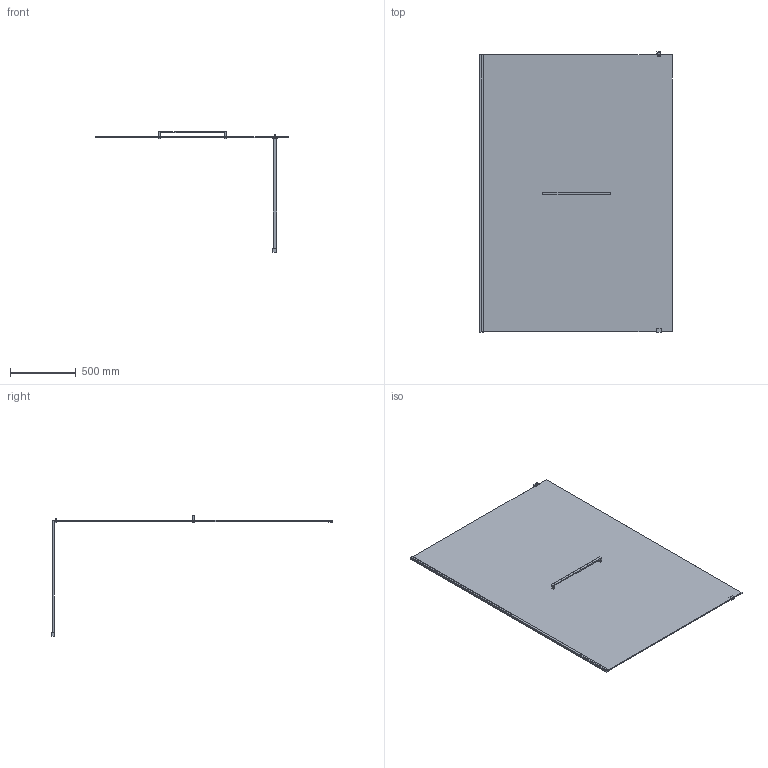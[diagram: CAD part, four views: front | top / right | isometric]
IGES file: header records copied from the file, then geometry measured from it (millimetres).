
Start section: SolidWorks IGES file using analytic representation for surfaces
Global section: file name: D:\Users\M.Szymanski\Desktop\Kabiny\PIII_ALTIIa\03. do przegrania\PIII_ALTIIa_150_z_relingiem_K3D.IGS; native system: SolidWorks 2011; preprocessor: SolidWorks 2011; author: M.Szymanski; date: 181005.105054; units: millimetre
Bounding box: 1458.45 x 2128 x 914.13 mm (x, y, z)
Surface area: 6466230.1 mm2 (no closed solid volume)
Topology: 0 solids, 0 shells, 62 faces, 444 edges, 592 vertices
Faces by surface type: bspline 62
